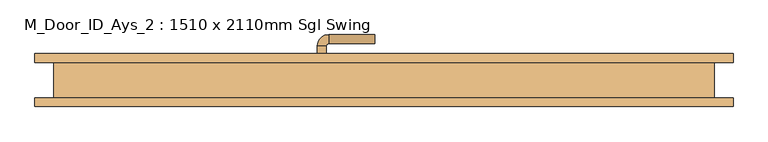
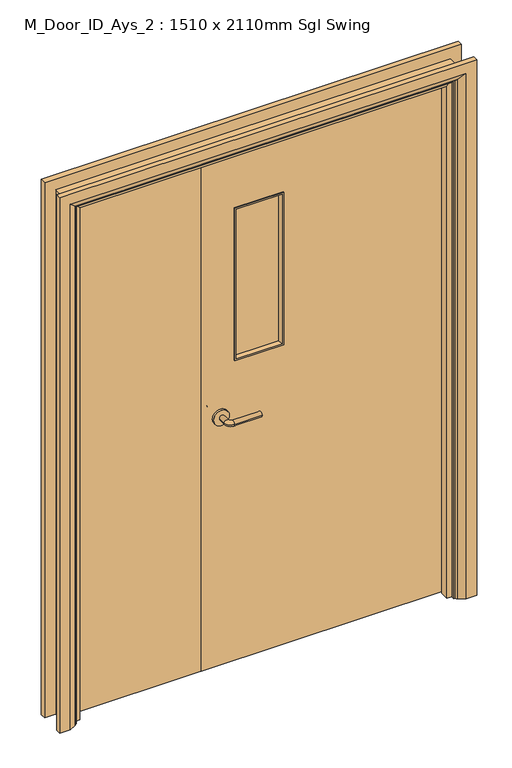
"""IFC4 building model written with IfcOpenShell, lengths in millimetres: door geometry, M_Door_ID_Ays_2 : 1510 x 2110mm Sgl Swing."""

from ifc_helpers import new_model, si_unit, point, frame, frame_2d, origin, place, context, project, spatial, polyline, circle_curve, ellipse_curve, trimmed, segment, composite_curve, outline, extrude, faceted_brep, source, transform, mapped, element, save
from ifc_brep_helpers import plane_surface, cylinder_surface, revolved_surface, advanced_brep


def m_door_id_ays_2_1510_x_2110mm_sgl_swing_a704306d(model_context):
    return source(origin(), model_context, "Body", "SolidModel", [
        advanced_brep(
        [(88.5, 0.0, 1000.0), (108.5, 0.0, 1000.0), (108.5, -30.0, 1000.0), (88.5, -30.0, 1000.0), (113.5, -35.0, 1000.0), (113.5, -55.0, 1000.0), (218.5, -55.0, 1000.0), (218.5, -35.0, 1000.0)],
        [
            (0, 1, circle_curve(frame((98.5, 0.0, 1000.0), z_axis=(0.0, 1.0, 0.0), x_axis=(1.0, 0.0, 0.0)), 10.0)),
            (1, 0, circle_curve(frame((98.5, 0.0, 1000.0), z_axis=(0.0, 1.0, 0.0), x_axis=(1.0, 0.0, 0.0)), 10.0)),
            (1, 2),
            (2, 3, circle_curve(frame((98.5, -30.0, 1000.0), z_axis=(0.0, 1.0, 0.0), x_axis=(1.0, 0.0, 0.0)), 10.0)),
            (3, 0),
            (3, 2, circle_curve(frame((98.5, -30.0, 1000.0), z_axis=(0.0, 1.0, 0.0), x_axis=(1.0, 0.0, 0.0)), 10.0)),
            (4, 5, circle_curve(frame((113.5, -45.0, 1000.0), z_axis=(-1.0, 0.0, 0.0), x_axis=(0.0, 1.0, 0.0)), 10.0)),
            (5, 3, circle_curve(frame((113.5, -30.0, 1000.0), z_axis=(0.0, 0.0, -1.0), x_axis=(-1.0, 0.0, 0.0)), 25.0)),
            (2, 4, circle_curve(frame((113.5, -30.0, 1000.0), z_axis=(0.0, 0.0, 1.0), x_axis=(-1.0, 0.0, 0.0)), 5.0)),
            (5, 4, circle_curve(frame((113.5, -45.0, 1000.0), z_axis=(-1.0, 0.0, 0.0), x_axis=(0.0, 1.0, 0.0)), 10.0)),
            (6, 7, circle_curve(frame((218.5, -45.0, 1000.0), z_axis=(1.0, 0.0, 0.0), x_axis=(0.0, 1.0, 0.0)), 10.0)),
            (7, 6, circle_curve(frame((218.5, -45.0, 1000.0), z_axis=(1.0, 0.0, 0.0), x_axis=(0.0, 1.0, 0.0)), 10.0)),
            (4, 7),
            (6, 5),
        ],
        [
            plane_surface(frame((98.5, 0.0, 1000.0), z_axis=(0.0, 1.0, 0.0), x_axis=(0.0, 0.0, 1.0))),
            cylinder_surface(frame((98.5, 0.0, 1000.0), z_axis=(0.0, 1.0, 0.0), x_axis=(1.0, 0.0, 0.0)), 10.0),
            revolved_surface(trimmed(ellipse_curve(frame((98.5, -30.0, 1000.0), z_axis=(0.0, -1.0, 0.0), x_axis=(1.0, 0.0, 0.0)), 10.0, 10.0), [point((88.5, -30.0, 1000.0))], [point((108.5, -30.0, 1000.0))], True, "CARTESIAN"), (113.5, -30.0, 1000.0), (0.0, 0.0, -1.0)),
            revolved_surface(trimmed(ellipse_curve(frame((98.5, -30.0, 1000.0), z_axis=(0.0, -1.0, 0.0), x_axis=(1.0, 0.0, 0.0)), 10.0, 10.0), [point((108.5, -30.0, 1000.0))], [point((88.5, -30.0, 1000.0))], True, "CARTESIAN"), (113.5, -30.0, 1000.0), (0.0, 0.0, -1.0)),
            plane_surface(frame((218.5, -45.0, 1000.0), z_axis=(1.0, 0.0, 0.0), x_axis=(0.0, 0.0, 1.0))),
            cylinder_surface(frame((113.5, -45.0, 1000.0), z_axis=(-1.0, 0.0, 0.0), x_axis=(0.0, 1.0, 0.0)), 10.0),
        ],
        [
            (0, [[1, 2]]),
            (1, [[3, 4, 5, -2]]),
            (1, [[-5, 6, -3, -1]]),
            (2, [[7, 8, -4, 9]]),
            (3, [[10, -9, -6, -8]]),
            (4, [[11, 12]]),
            (5, [[13, -11, 14, -7]]),
            (5, [[-14, -12, -13, -10]]),
        ],
    ),
        extrude(outline(composite_curve([segment(trimmed(circle_curve(frame_2d((1000.0, 96.0)), 30.0), [point((1000.0, 66.0))], [point((1000.0, 126.0))], False, "CARTESIAN"), True, "CONTINUOUS"), segment(trimmed(circle_curve(frame_2d((1000.0, 96.0)), 30.0), [point((1000.0, 126.0))], [point((1000.0, 66.0))], False, "CARTESIAN"), True, "CONTINUOUS")], self_intersect=False)), frame((0.0, 0.0, 0.0), z_axis=(0.0, 1.0, 0.0), x_axis=(0.0, 0.0, 1.0)), (0.0, 0.0, 1.0), 8.0),
        advanced_brep(
        [(88.5, 48.0, 1000.0), (108.5, 48.0, 1000.0), (88.5, 78.0, 1000.0), (108.5, 78.0, 1000.0), (113.5, 83.0, 1000.0), (113.5, 103.0, 1000.0), (218.5, 103.0, 1000.0), (218.5, 83.0, 1000.0)],
        [
            (0, 1, circle_curve(frame((98.5, 48.0, 1000.0), z_axis=(0.0, -1.0, 0.0), x_axis=(1.0, 0.0, 0.0)), 10.0)),
            (1, 0, circle_curve(frame((98.5, 48.0, 1000.0), z_axis=(0.0, -1.0, 0.0), x_axis=(1.0, 0.0, 0.0)), 10.0)),
            (0, 2),
            (2, 3, circle_curve(frame((98.5, 78.0, 1000.0), z_axis=(0.0, -1.0, 0.0), x_axis=(1.0, 0.0, 0.0)), 10.0)),
            (3, 1),
            (3, 2, circle_curve(frame((98.5, 78.0, 1000.0), z_axis=(0.0, -1.0, 0.0), x_axis=(1.0, 0.0, 0.0)), 10.0)),
            (4, 3, circle_curve(frame((113.5, 78.0, 1000.0), z_axis=(0.0, 0.0, 1.0), x_axis=(-1.0, 0.0, 0.0)), 5.0)),
            (2, 5, circle_curve(frame((113.5, 78.0, 1000.0), z_axis=(0.0, 0.0, -1.0), x_axis=(-1.0, 0.0, 0.0)), 25.0)),
            (5, 4, circle_curve(frame((113.5, 93.0, 1000.0), z_axis=(-1.0, 0.0, 0.0), x_axis=(0.0, -1.0, 0.0)), 10.0)),
            (4, 5, circle_curve(frame((113.5, 93.0, 1000.0), z_axis=(-1.0, 0.0, 0.0), x_axis=(0.0, -1.0, 0.0)), 10.0)),
            (6, 7, circle_curve(frame((218.5, 93.0, 1000.0), z_axis=(1.0, 0.0, 0.0), x_axis=(0.0, -1.0, 0.0)), 10.0)),
            (7, 6, circle_curve(frame((218.5, 93.0, 1000.0), z_axis=(1.0, 0.0, 0.0), x_axis=(0.0, -1.0, 0.0)), 10.0)),
            (5, 6),
            (7, 4),
        ],
        [
            plane_surface(frame((98.5, 48.0, 1000.0), z_axis=(0.0, -1.0, 0.0), x_axis=(0.0, 0.0, 1.0))),
            cylinder_surface(frame((98.5, 48.0, 1000.0), z_axis=(0.0, -1.0, 0.0), x_axis=(1.0, 0.0, 0.0)), 10.0),
            revolved_surface(trimmed(ellipse_curve(frame((98.5, 78.0, 1000.0), z_axis=(0.0, -1.0, 0.0), x_axis=(1.0, 0.0, 0.0)), 10.0, 10.0), [point((88.5, 78.0, 1000.0))], [point((108.5, 78.0, 1000.0))], True, "CARTESIAN"), (113.5, 78.0, 1000.0), (0.0, 0.0, -1.0)),
            revolved_surface(trimmed(ellipse_curve(frame((98.5, 78.0, 1000.0), z_axis=(0.0, -1.0, 0.0), x_axis=(1.0, 0.0, 0.0)), 10.0, 10.0), [point((108.5, 78.0, 1000.0))], [point((88.5, 78.0, 1000.0))], True, "CARTESIAN"), (113.5, 78.0, 1000.0), (0.0, 0.0, -1.0)),
            plane_surface(frame((218.5, 93.0, 1000.0), z_axis=(1.0, 0.0, 0.0), x_axis=(0.0, 0.0, 1.0))),
            cylinder_surface(frame((113.5, 93.0, 1000.0), z_axis=(-1.0, 0.0, 0.0), x_axis=(0.0, -1.0, 0.0)), 10.0),
        ],
        [
            (0, [[1, 2]]),
            (1, [[-1, 3, 4, 5]]),
            (1, [[-2, -5, 6, -3]]),
            (2, [[7, -4, 8, 9]]),
            (3, [[-8, -6, -7, 10]]),
            (4, [[11, 12]]),
            (5, [[-9, 13, -12, 14]]),
            (5, [[-10, -14, -11, -13]]),
        ],
    ),
        extrude(outline(composite_curve([segment(trimmed(circle_curve(frame_2d((1000.0, 96.0)), 30.0), [point((1000.0, 66.0))], [point((1000.0, 126.0))], False, "CARTESIAN"), True, "CONTINUOUS"), segment(trimmed(circle_curve(frame_2d((1000.0, 96.0)), 30.0), [point((1000.0, 126.0))], [point((1000.0, 66.0))], False, "CARTESIAN"), True, "CONTINUOUS")], self_intersect=False)), frame((0.0, 40.0, 0.0), z_axis=(0.0, 1.0, 0.0), x_axis=(0.0, 0.0, 1.0)), (0.0, 0.0, 1.0), 8.0),
        extrude(outline(polyline([(2102.0, -508.0), (0.0, -508.0), (0.0, -476.0), (2070.0, -476.0), (2070.0, 954.0), (0.0, 954.0), (0.0, 986.0), (2102.0, 986.0), (2102.0, -508.0)])), frame((0.0, -40.0, 0.0), z_axis=(0.0, 1.0, 0.0), x_axis=(0.0, 0.0, 1.0)), (0.0, 0.0, 1.0), 80.0),
        faceted_brep([(-457.0, 5.0, 0.0), (-457.0, -27.0, 0.0), (-476.0, -27.0, 0.0), (-476.0, 5.0, 0.0), (-457.0, 5.0, 2051.0), (-457.0, -27.0, 2051.0), (-476.0, -27.0, 2070.0), (-476.0, 5.0, 2070.0), (935.0, 5.0, 0.0), (954.0, 5.0, 0.0), (954.0, -27.0, 0.0), (935.0, -27.0, 0.0), (935.0, 5.0, 2051.0), (954.0, 5.0, 2070.0), (954.0, -27.0, 2070.0), (935.0, -27.0, 2051.0)], [[[0, 1, 2, 3]], [[1, 0, 4, 5]], [[2, 1, 5, 6]], [[3, 2, 6, 7]], [[0, 3, 7, 4]], [[8, 9, 10, 11]], [[12, 13, 9, 8]], [[13, 14, 10, 9]], [[14, 15, 11, 10]], [[15, 12, 8, 11]], [[5, 4, 12, 15]], [[6, 5, 15, 14]], [[7, 6, 14, 13]], [[4, 7, 13, 12]]]),
        advanced_brep(
        [(1029.0, 60.0, 0.0), (1029.0, 40.0, 0.0), (959.0, 40.0, 0.0), (963.0, 46.0, 0.0), (989.0, 60.0, 0.0), (1029.0, 60.0, 2145.0), (1029.0, 40.0, 2145.0), (-551.0, 40.0, 2145.0), (-551.0, 40.0, 0.0), (-481.0, 40.0, 0.0), (-481.0, 40.0, 2075.0), (959.0, 40.0, 2075.0), (963.0, 46.0, 2079.0), (989.0, 60.0, 2105.0), (-511.0, 60.0, 2105.0), (-511.0, 60.0, 0.0), (-551.0, 60.0, 0.0), (-551.0, 60.0, 2145.0), (-485.0, 46.0, 0.0), (-485.0, 46.0, 2079.0)],
        [
            (0, 1),
            (1, 2),
            (2, 3, circle_curve(frame((967.0, 39.0, 0.0), z_axis=(0.0, 0.0, -1.0), x_axis=(1.0, 0.0, 0.0)), 8.0622577)),
            (3, 4),
            (4, 0),
            (0, 5),
            (5, 6),
            (6, 1),
            (6, 7),
            (7, 8),
            (8, 9),
            (9, 10),
            (10, 11),
            (11, 2),
            (11, 12, ellipse_curve(frame((967.0, 39.0, 2083.0), z_axis=(0.7071067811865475, 0.0, -0.7071067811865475), x_axis=(-0.7071067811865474, 0.0, -0.7071067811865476)), 11.4017543, 8.0622577)),
            (12, 3),
            (12, 13),
            (13, 4),
            (13, 14),
            (14, 15),
            (15, 16),
            (16, 17),
            (17, 5),
            (7, 17),
            (16, 8),
            (15, 18),
            (18, 9, circle_curve(frame((-489.0, 39.0, 0.0), z_axis=(0.0, 0.0, -1.0), x_axis=(-1.0, 0.0, 0.0)), 8.0622577)),
            (19, 10, ellipse_curve(frame((-489.0, 39.0, 2083.0), z_axis=(-0.7071067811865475, 0.0, -0.7071067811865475), x_axis=(-0.7071067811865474, 0.0, 0.7071067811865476)), 11.4017543, 8.0622577)),
            (18, 19),
            (14, 19),
            (19, 12),
        ],
        [
            plane_surface(frame((959.0, 40.0, 0.0), z_axis=(0.0, 0.0, -1.0), x_axis=(0.0, -1.0, 0.0))),
            plane_surface(frame((1029.0, 60.0, 0.0), z_axis=(1.0, 0.0, 0.0), x_axis=(0.0, 0.0, 1.0))),
            plane_surface(frame((1029.0, 40.0, 0.0), z_axis=(0.0, -1.0, 0.0), x_axis=(0.0, 0.0, 1.0))),
            cylinder_surface(frame((967.0, 39.0, 0.0), z_axis=(0.0, 0.0, -1.0), x_axis=(1.0, 0.0, 0.0)), 8.0622577),
            plane_surface(frame((963.0, 46.0, 0.0), z_axis=(-0.4740998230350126, 0.8804710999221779, 0.0), x_axis=(0.0, 0.0, 1.0))),
            plane_surface(frame((989.0, 60.0, 0.0), z_axis=(0.0, 1.0, 0.0), x_axis=(0.0, 0.0, 1.0))),
            plane_surface(frame((-551.0, 60.0, 2145.0), z_axis=(-1.0, 0.0, 0.0), x_axis=(0.0, 0.0, -1.0))),
            plane_surface(frame((-481.0, 40.0, 0.0), z_axis=(0.0, 0.0, -1.0), x_axis=(0.0, -1.0, 0.0))),
            cylinder_surface(frame((-489.0, 39.0, 2075.0), z_axis=(0.0, 0.0, 1.0), x_axis=(-1.0, 0.0, 0.0)), 8.0622577),
            plane_surface(frame((-485.0, 46.0, 2079.0), z_axis=(0.4740998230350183, 0.8804710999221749, 0.0), x_axis=(0.0, 0.0, -1.0))),
            plane_surface(frame((1029.0, 60.0, 2145.0), z_axis=(0.0, 0.0, 1.0), x_axis=(-1.0, 0.0, 0.0))),
            cylinder_surface(frame((959.0, 39.0, 2083.0), z_axis=(1.0, 0.0, 0.0), x_axis=(0.0, 0.0, 1.0)), 8.0622577),
            plane_surface(frame((963.0, 46.0, 2079.0), z_axis=(0.0, 0.8804710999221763, -0.4740998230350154), x_axis=(-1.0, 0.0, 0.0))),
        ],
        [
            (0, [[1, 2, 3, 4, 5]]),
            (1, [[-1, 6, 7, 8]]),
            (2, [[-2, -8, 9, 10, 11, 12, 13, 14]]),
            (3, [[-3, -14, 15, 16]]),
            (4, [[-4, -16, 17, 18]]),
            (5, [[-5, -18, 19, 20, 21, 22, 23, -6]]),
            (6, [[24, -22, 25, -10]]),
            (7, [[-21, 26, 27, -11, -25]]),
            (8, [[28, -12, -27, 29]]),
            (9, [[30, -29, -26, -20]]),
            (10, [[-7, -23, -24, -9]]),
            (11, [[-15, -13, -28, 31]]),
            (12, [[-17, -31, -30, -19]]),
        ],
    ),
        advanced_brep(
        [(-551.0, -60.0, 0.0), (-551.0, -40.0, 0.0), (-481.0, -40.0, 0.0), (-485.0, -46.0, 0.0), (-511.0, -60.0, 0.0), (-551.0, -60.0, 2145.0), (-551.0, -40.0, 2145.0), (1029.0, -40.0, 2145.0), (1029.0, -40.0, 0.0), (959.0, -40.0, 0.0), (959.0, -40.0, 2075.0), (-481.0, -40.0, 2075.0), (-485.0, -46.0, 2079.0), (-511.0, -60.0, 2105.0), (989.0, -60.0, 2105.0), (989.0, -60.0, 0.0), (1029.0, -60.0, 0.0), (1029.0, -60.0, 2145.0), (963.0, -46.0, 0.0), (963.0, -46.0, 2079.0)],
        [
            (0, 1),
            (1, 2),
            (2, 3, circle_curve(frame((-489.0, -39.0, 0.0), z_axis=(0.0, 0.0, -1.0), x_axis=(-1.0, 0.0, 0.0)), 8.0622577)),
            (3, 4),
            (4, 0),
            (0, 5),
            (5, 6),
            (6, 1),
            (6, 7),
            (7, 8),
            (8, 9),
            (9, 10),
            (10, 11),
            (11, 2),
            (11, 12, ellipse_curve(frame((-489.0, -39.0, 2083.0), z_axis=(-0.7071067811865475, 0.0, -0.7071067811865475), x_axis=(0.7071067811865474, 0.0, -0.7071067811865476)), 11.4017543, 8.0622577)),
            (12, 3),
            (12, 13),
            (13, 4),
            (13, 14),
            (14, 15),
            (15, 16),
            (16, 17),
            (17, 5),
            (7, 17),
            (16, 8),
            (15, 18),
            (18, 9, circle_curve(frame((967.0, -39.0, 0.0), z_axis=(0.0, 0.0, -1.0), x_axis=(1.0, 0.0, 0.0)), 8.0622577)),
            (19, 10, ellipse_curve(frame((967.0, -39.0, 2083.0), z_axis=(0.7071067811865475, 0.0, -0.7071067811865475), x_axis=(0.7071067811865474, 0.0, 0.7071067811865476)), 11.4017543, 8.0622577)),
            (18, 19),
            (14, 19),
            (19, 12),
        ],
        [
            plane_surface(frame((-481.0, -40.0, 0.0), z_axis=(0.0, 0.0, -1.0), x_axis=(0.0, -1.0, 0.0))),
            plane_surface(frame((-551.0, -60.0, 0.0), z_axis=(-1.0, 0.0, 0.0), x_axis=(0.0, 0.0, 1.0))),
            plane_surface(frame((-551.0, -40.0, 0.0), z_axis=(0.0, 1.0, 0.0), x_axis=(0.0, 0.0, 1.0))),
            cylinder_surface(frame((-489.0, -39.0, 0.0), z_axis=(0.0, 0.0, -1.0), x_axis=(-1.0, 0.0, 0.0)), 8.0622577),
            plane_surface(frame((-485.0, -46.0, 0.0), z_axis=(0.4740998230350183, -0.8804710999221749, 0.0), x_axis=(0.0, 0.0, 1.0))),
            plane_surface(frame((-511.0, -60.0, 0.0), z_axis=(0.0, -1.0, 0.0), x_axis=(0.0, 0.0, 1.0))),
            plane_surface(frame((1029.0, -60.0, 2145.0), z_axis=(1.0, 0.0, 0.0), x_axis=(0.0, 0.0, -1.0))),
            plane_surface(frame((959.0, -40.0, 0.0), z_axis=(0.0, 0.0, -1.0), x_axis=(0.0, -1.0, 0.0))),
            cylinder_surface(frame((967.0, -39.0, 2075.0), z_axis=(0.0, 0.0, 1.0), x_axis=(1.0, 0.0, 0.0)), 8.0622577),
            plane_surface(frame((963.0, -46.0, 2079.0), z_axis=(-0.4740998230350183, -0.8804710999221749, 0.0), x_axis=(0.0, 0.0, -1.0))),
            plane_surface(frame((-551.0, -60.0, 2145.0), z_axis=(0.0, 0.0, 1.0), x_axis=(1.0, 0.0, 0.0))),
            cylinder_surface(frame((-481.0, -39.0, 2083.0), z_axis=(-1.0, 0.0, 0.0), x_axis=(0.0, 0.0, 1.0)), 8.0622577),
            plane_surface(frame((-485.0, -46.0, 2079.0), z_axis=(0.0, -0.8804710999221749, -0.4740998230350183), x_axis=(1.0, 0.0, 0.0))),
        ],
        [
            (0, [[1, 2, 3, 4, 5]]),
            (1, [[-1, 6, 7, 8]]),
            (2, [[-2, -8, 9, 10, 11, 12, 13, 14]]),
            (3, [[-3, -14, 15, 16]]),
            (4, [[-4, -16, 17, 18]]),
            (5, [[-5, -18, 19, 20, 21, 22, 23, -6]]),
            (6, [[24, -22, 25, -10]]),
            (7, [[-21, 26, 27, -11, -25]]),
            (8, [[28, -12, -27, 29]]),
            (9, [[30, -29, -26, -20]]),
            (10, [[-7, -23, -24, -9]]),
            (11, [[-15, -13, -28, 31]]),
            (12, [[-17, -31, -30, -19]]),
        ],
    ),
        extrude(outline(polyline([(5.753223, 951.0), (2067.0, 951.0), (2067.0, 25.0), (5.753223, 25.0), (5.753223, 951.0)]), holes=[polyline([(1817.0, 150.0), (1817.0, 335.0), (1207.0, 335.0), (1207.0, 150.0), (1817.0, 150.0)])]), frame((0.0, 8.0, 0.0), z_axis=(0.0, 1.0, 0.0), x_axis=(0.0, 0.0, 1.0)), (0.0, 0.0, 1.0), 32.0),
        extrude(outline(polyline([(22.0, 8.0), (-473.0, 8.0), (-473.0, 40.0), (22.0, 40.0), (22.0, 8.0)])), frame((0.0, 0.0, 5.753223), z_axis=(0.0, 0.0, 1.0), x_axis=(1.0, 0.0, 0.0)), (0.0, 0.0, 1.0), 2061.246777),
        extrude(outline(polyline([(335.0, 18.0), (150.0, 18.0), (150.0, 30.0), (335.0, 30.0), (335.0, 18.0)])), frame((0.0, 0.0, 1207.0), z_axis=(0.0, 0.0, 1.0), x_axis=(1.0, 0.0, 0.0)), (0.0, 0.0, 1.0), 610.0),
        faceted_brep([(150.0, 43.0, 1207.0), (150.0, 30.0, 1207.0), (150.0, 30.0, 1817.0), (150.0, 43.0, 1817.0), (162.0, 30.0, 1219.0), (156.0, 43.0, 1213.0), (156.0, 43.0, 1811.0), (162.0, 30.0, 1805.0), (335.0, 30.0, 1817.0), (335.0, 43.0, 1817.0), (329.0, 43.0, 1811.0), (323.0, 30.0, 1805.0), (335.0, 30.0, 1207.0), (335.0, 43.0, 1207.0), (329.0, 43.0, 1213.0), (323.0, 30.0, 1219.0)], [[[0, 1, 2, 3]], [[4, 5, 6, 7]], [[3, 2, 8, 9]], [[7, 6, 10, 11]], [[9, 8, 12, 13]], [[11, 10, 14, 15]], [[1, 12, 8, 2], [7, 11, 15, 4]], [[13, 12, 1, 0]], [[3, 9, 13, 0], [5, 14, 10, 6]], [[15, 14, 5, 4]]]),
        faceted_brep([(335.0, 5.0, 1207.0), (335.0, 18.0, 1207.0), (335.0, 18.0, 1817.0), (335.0, 5.0, 1817.0), (323.0, 18.0, 1219.0), (329.0, 5.0, 1213.0), (329.0, 5.0, 1811.0), (323.0, 18.0, 1805.0), (150.0, 18.0, 1817.0), (150.0, 5.0, 1817.0), (156.0, 5.0, 1811.0), (162.0, 18.0, 1805.0), (150.0, 18.0, 1207.0), (150.0, 5.0, 1207.0), (156.0, 5.0, 1213.0), (162.0, 18.0, 1219.0)], [[[0, 1, 2, 3]], [[4, 5, 6, 7]], [[3, 2, 8, 9]], [[7, 6, 10, 11]], [[9, 8, 12, 13]], [[11, 10, 14, 15]], [[1, 12, 8, 2], [7, 11, 15, 4]], [[13, 12, 1, 0]], [[3, 9, 13, 0], [5, 14, 10, 6]], [[15, 14, 5, 4]]]),
    ])


if __name__ == "__main__":
    model = new_model("IFC4")
    model_context = context("Model", 3, world=origin())
    ifc_project = project(units=[si_unit("LENGTHUNIT", "METRE", prefix="MILLI")], contexts=[model_context])
    site = spatial("IfcSite", under=ifc_project)
    building = spatial("IfcBuilding", under=site)
    placement = place(None, origin())
    m_door_id_ays_2_1510_x_2110mm_sgl_swing_shape = m_door_id_ays_2_1510_x_2110mm_sgl_swing_a704306d(model_context)
    element("IfcDoor", 1, ObjectType="M_Door_ID_Ays_2 : 1510 x 2110mm Sgl Swing", at=placement, inside=building, context=model_context, shape_type="MappedRepresentation", body=[
        mapped(m_door_id_ays_2_1510_x_2110mm_sgl_swing_shape, transform((0.0, 0.0, 0.0), x_axis=(1.0, 0.0, 0.0), y_axis=(0.0, 1.0, 0.0), z_axis=(0.0, 0.0, 1.0))),
    ])
    save(model, "model.ifc")
